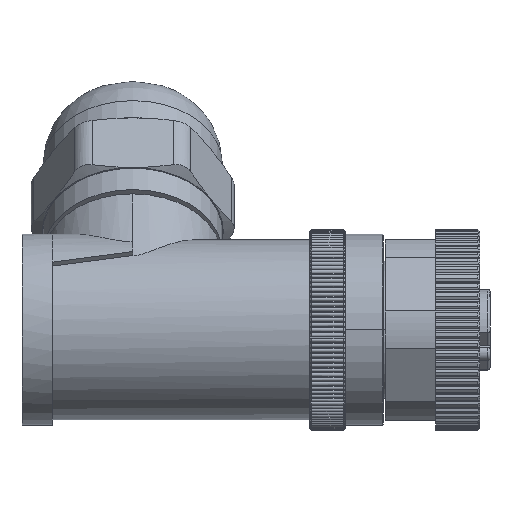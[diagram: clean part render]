
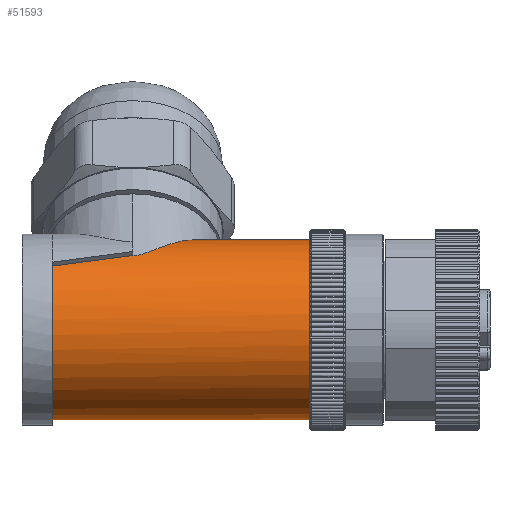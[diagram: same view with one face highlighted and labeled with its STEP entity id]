
A CAD part, left-side view. The second image highlights one B-rep face of the part: STEP entity #51593.
In plain terms, the highlighted cylindrical face has radius 8.95 mm (diameter 17.9 mm), a partial arc.
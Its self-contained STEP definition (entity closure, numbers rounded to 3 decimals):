
#11300=CARTESIAN_POINT('',(0.,16.385,
8.95));
#12212=CARTESIAN_POINT('',(0.,4.9,0.));
#12213=DIRECTION('',(0.,-1.,0.));
#12214=DIRECTION('',(0.,0.,1.));
#12215=AXIS2_PLACEMENT_3D('',#12212,#12213,#12214);
#12217=DIRECTION('',(0.,-1.,0.));
#12218=VECTOR('',#12217,25.6);
#12219=CARTESIAN_POINT('',(0.,30.5,-8.95));
#12220=LINE('',#12219,#12218);
#12221=CARTESIAN_POINT('',(0.,30.5,0.));
#12222=DIRECTION('',(0.,1.,0.));
#12223=DIRECTION('',(0.,0.,-1.));
#12224=AXIS2_PLACEMENT_3D('',#12221,#12222,#12223);
#12226=CARTESIAN_POINT('',(-5.069,22.5,7.376));
#12227=CARTESIAN_POINT('',(-5.524,25.166,
7.063));
#12228=CARTESIAN_POINT('',(-5.944,27.832,
6.713));
#12229=CARTESIAN_POINT('',(-6.329,30.5,6.329));
#12231=CARTESIAN_POINT('',(-5.069,22.5,7.376));
#12232=CARTESIAN_POINT('',(-5.069,22.31,
7.376));
#12233=CARTESIAN_POINT('',(-5.012,21.924,
7.416));
#12234=CARTESIAN_POINT('',(-4.762,21.322,
7.581));
#12235=CARTESIAN_POINT('',(-4.398,20.717,
7.8));
#12236=CARTESIAN_POINT('',(-3.939,20.091,
8.043));
#12237=CARTESIAN_POINT('',(-3.387,19.434,
8.293));
#12238=CARTESIAN_POINT('',(-2.737,18.738,
8.532));
#12239=CARTESIAN_POINT('',(-1.974,17.997,
8.743));
#12240=CARTESIAN_POINT('',(-1.081,17.214,
8.902));
#12241=CARTESIAN_POINT('',(-0.379,16.662,
8.95));
#12242=CARTESIAN_POINT('',(0.,16.385,
8.95));
#12244=DIRECTION('',(0.,-1.,0.));
#12245=VECTOR('',#12244,11.485);
#12246=CARTESIAN_POINT('',(0.,16.385,
8.95));
#12247=LINE('',#12246,#12245);
#37920=VERTEX_POINT('',#11300);
#37927=CARTESIAN_POINT('',(-6.329,30.5,6.329));
#37928=VERTEX_POINT('',#37927);
#37934=CARTESIAN_POINT('',(-5.069,22.5,7.376));
#37936=VERTEX_POINT('',#37934);
#37941=CARTESIAN_POINT('',(0.,30.5,-8.95));
#37942=VERTEX_POINT('',#37941);
#41716=CARTESIAN_POINT('',(0.,4.9,-8.95));
#41717=VERTEX_POINT('',#41716);
#41718=CARTESIAN_POINT('',(0.,4.9,8.95));
#41719=VERTEX_POINT('',#41718);
#51577=CARTESIAN_POINT('',(0.,33.5,0.));
#51578=DIRECTION('',(0.,-1.,0.));
#51579=DIRECTION('',(0.,0.,-1.));
#51580=AXIS2_PLACEMENT_3D('',#51577,#51578,#51579);
#51581=CYLINDRICAL_SURFACE('',#51580,8.95);
#51582=ORIENTED_EDGE('',*,*,#49203,.T.);
#51583=ORIENTED_EDGE('',*,*,#50543,.F.);
#51585=ORIENTED_EDGE('',*,*,#51584,.T.);
#51587=ORIENTED_EDGE('',*,*,#51586,.F.);
#51589=ORIENTED_EDGE('',*,*,#51588,.T.);
#51590=ORIENTED_EDGE('',*,*,#50533,.T.);
#51591=EDGE_LOOP('',(#51582,#51583,#51585,#51587,#51589,#51590));
#51592=FACE_OUTER_BOUND('',#51591,.F.);
#51593=ADVANCED_FACE('',(#51592),#51581,.T.);
#12216=CIRCLE('',#12215,8.95);
#12225=CIRCLE('',#12224,8.95);
#12230=B_SPLINE_CURVE_WITH_KNOTS('',3,(#12226,#12227,#12228,#12229),
.UNSPECIFIED.,.F.,.F.,(4,4),(0.,1.),.UNSPECIFIED.);
#12243=B_SPLINE_CURVE_WITH_KNOTS('',3,(#12231,#12232,#12233,#12234,#12235,
#12236,#12237,#12238,#12239,#12240,#12241,#12242),.UNSPECIFIED.,.F.,.F.,(4,1,1,
1,1,1,1,1,1,4),(0.,0.111,0.222,0.333,
0.444,0.556,0.667,0.778,
0.889,1.),.UNSPECIFIED.);
#49203=EDGE_CURVE('',#41719,#41717,#12216,.T.);
#50533=EDGE_CURVE('',#37920,#41719,#12247,.T.);
#50543=EDGE_CURVE('',#37942,#41717,#12220,.T.);
#51584=EDGE_CURVE('',#37942,#37928,#12225,.T.);
#51586=EDGE_CURVE('',#37936,#37928,#12230,.T.);
#51588=EDGE_CURVE('',#37936,#37920,#12243,.T.);
